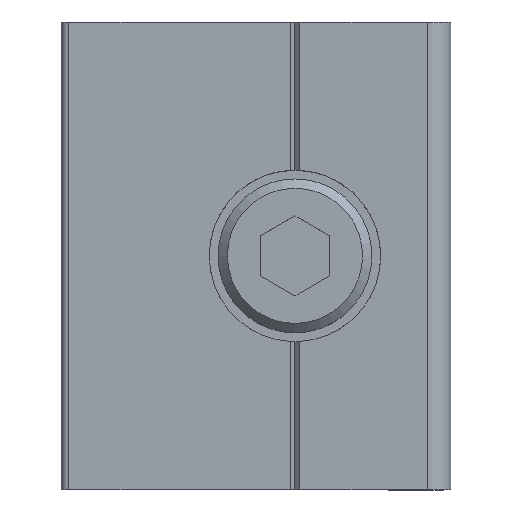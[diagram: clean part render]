
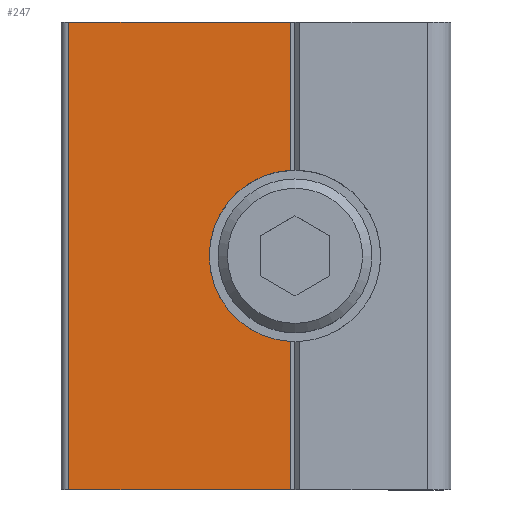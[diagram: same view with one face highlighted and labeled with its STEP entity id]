
A CAD part, top view. The second image highlights one B-rep face of the part: STEP entity #247.
In plain terms, the highlighted planar face has unit normal (0, 0, 1) as drawn and (0, 1, 0) by its records, which use the part's own axes.
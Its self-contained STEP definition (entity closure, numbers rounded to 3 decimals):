
#247=ADVANCED_FACE('',(#477),#478,.F.);
#477=FACE_OUTER_BOUND('',#711,.T.);
#478=PLANE('',#712);
#711=EDGE_LOOP('',(#1168,#1169,#1170,#1171,#1172,#1173));
#712=AXIS2_PLACEMENT_3D('',#1174,#1175,#1176);
#1168=ORIENTED_EDGE('',*,*,#1620,.T.);
#1169=ORIENTED_EDGE('',*,*,#1633,.F.);
#1170=ORIENTED_EDGE('',*,*,#1634,.T.);
#1171=ORIENTED_EDGE('',*,*,#1515,.T.);
#1172=ORIENTED_EDGE('',*,*,#1631,.F.);
#1173=ORIENTED_EDGE('',*,*,#1635,.F.);
#1174=CARTESIAN_POINT('',(720.734,-1178.483,-417.54));
#1175=DIRECTION('',(0.0,-1.0,0.0));
#1176=DIRECTION('',(0.0,0.0,-1.0));
#1515=EDGE_CURVE('',#1815,#1813,#1816,.T.);
#1620=EDGE_CURVE('',#1978,#1976,#1979,.T.);
#1631=EDGE_CURVE('',#1991,#1813,#1993,.T.);
#1633=EDGE_CURVE('',#1995,#1976,#1996,.T.);
#1634=EDGE_CURVE('',#1995,#1815,#1997,.T.);
#1635=EDGE_CURVE('',#1978,#1991,#1998,.T.);
#1813=VERTEX_POINT('',#2226);
#1815=VERTEX_POINT('',#2228);
#1816=LINE('',#2229,#2230);
#1976=VERTEX_POINT('',#2450);
#1978=VERTEX_POINT('',#2452);
#1979=LINE('',#2453,#2454);
#1991=VERTEX_POINT('',#2470);
#1993=LINE('',#2472,#2473);
#1995=VERTEX_POINT('',#2475);
#1996=CIRCLE('',#2476,5.5);
#1997=LINE('',#2477,#2478);
#1998=LINE('',#2479,#2480);
#2226=CARTESIAN_POINT('',(706.534,-1178.483,-447.54));
#2228=CARTESIAN_POINT('',(720.734,-1178.483,-447.54));
#2229=CARTESIAN_POINT('',(720.734,-1178.483,-447.54));
#2230=VECTOR('',#2680,1.0);
#2450=CARTESIAN_POINT('',(720.734,-1178.483,-427.048));
#2452=CARTESIAN_POINT('',(720.734,-1178.483,-417.54));
#2453=CARTESIAN_POINT('',(720.734,-1178.483,-417.54));
#2454=VECTOR('',#2813,1.0);
#2470=CARTESIAN_POINT('',(706.534,-1178.483,-417.54));
#2472=CARTESIAN_POINT('',(706.534,-1178.483,-417.54));
#2473=VECTOR('',#2824,1.0);
#2475=CARTESIAN_POINT('',(720.734,-1178.483,-438.032));
#2476=AXIS2_PLACEMENT_3D('',#2825,#2826,#2827);
#2477=CARTESIAN_POINT('',(720.734,-1178.483,-417.54));
#2478=VECTOR('',#2828,1.0);
#2479=CARTESIAN_POINT('',(720.734,-1178.483,-417.54));
#2480=VECTOR('',#2829,1.0);
#2680=DIRECTION('',(-1.0,0.0,0.0));
#2813=DIRECTION('',(0.0,0.0,-1.0));
#2824=DIRECTION('',(0.0,0.0,-1.0));
#2825=CARTESIAN_POINT('',(721.034,-1178.483,-432.54));
#2826=DIRECTION('',(0.0,1.0,0.));
#2827=DIRECTION('',(0.0,0.,-1.0));
#2828=DIRECTION('',(0.0,0.0,-1.0));
#2829=DIRECTION('',(-1.0,0.0,0.0));
